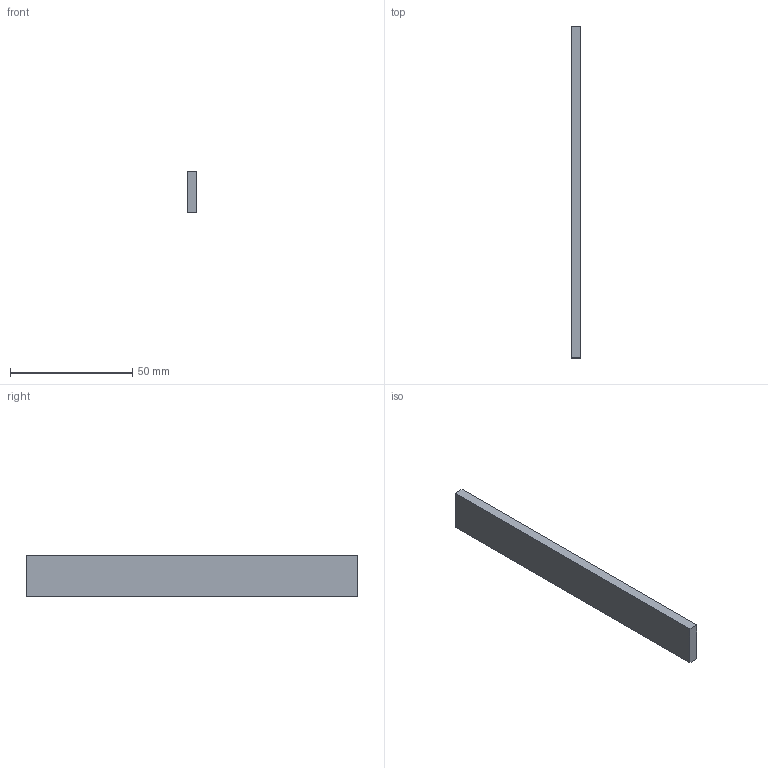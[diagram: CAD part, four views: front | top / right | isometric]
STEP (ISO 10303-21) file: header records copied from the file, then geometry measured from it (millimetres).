
FILE_DESCRIPTION(('Open CASCADE Model'),'2;1');
FILE_NAME('Open CASCADE Shape Model','2026-10-04T01:02:36',('Author'),( 'Open CASCADE'),'Open CASCADE STEP processor 8.0','Open CASCADE 8.0' ,'Unknown');
FILE_SCHEMA(('AUTOMOTIVE_DESIGN { 1 0 10303 214 1 1 1 1 }'));
Length unit declared in the file: millimetre
Products named in the file (1): Open CASCADE STEP translator 8.0 402
Bounding box: 4 x 136 x 17 mm (x, y, z)
Volume: 9248 mm3; surface area: 5848 mm2
Topology: 1 solids, 1 shells, 6 faces, 12 edges, 8 vertices
Faces by surface type: plane 6
Entity records: 322 total; most frequent: CARTESIAN_POINT 51, DIRECTION 50, LINE 36, VECTOR 36, ORIENTED_EDGE 24, PCURVE 24, DEFINITIONAL_REPRESENTATION 24, EDGE_CURVE 12
